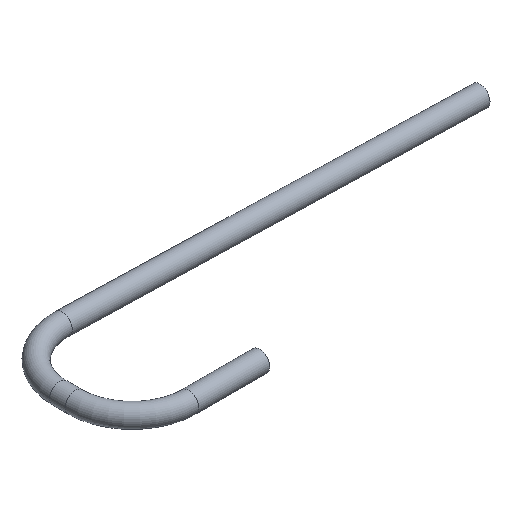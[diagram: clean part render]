
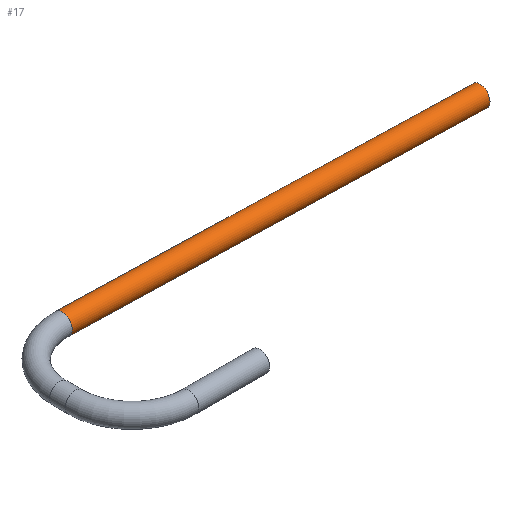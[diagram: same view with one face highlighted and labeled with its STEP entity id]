
A CAD part, isometric view. The second image highlights one B-rep face of the part: STEP entity #17.
In plain terms, the highlighted cylindrical face has radius 0.525 mm (diameter 1.05 mm), a full revolution.
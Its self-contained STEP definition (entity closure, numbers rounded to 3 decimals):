
#17 = ADVANCED_FACE('',(#18),#32,.T.);
#18 = FACE_BOUND('',#19,.T.);
#19 = EDGE_LOOP('',(#20,#49,#75,#76));
#20 = ORIENTED_EDGE('',*,*,#21,.T.);
#21 = EDGE_CURVE('',#22,#24,#26,.T.);
#22 = VERTEX_POINT('',#23);
#23 = CARTESIAN_POINT('',(10.969,-39.424,-8.2));
#24 = VERTEX_POINT('',#25);
#25 = CARTESIAN_POINT('',(-9.857,-38.209,
    -8.807));
#26 = SEAM_CURVE('',#27,(#31,#42),.PCURVE_S1.);
#27 = LINE('',#28,#29);
#28 = CARTESIAN_POINT('',(10.969,-39.424,-8.2));
#29 = VECTOR('',#30,1.);
#30 = DIRECTION('',(-0.998,0.058,
    -0.029));
#31 = PCURVE('',#32,#37);
#32 = CYLINDRICAL_SURFACE('',#33,0.525);
#33 = AXIS2_PLACEMENT_3D('',#34,#35,#36);
#34 = CARTESIAN_POINT('',(11.,-38.9,-8.2));
#35 = DIRECTION('',(-0.998,0.058,
    -0.029));
#36 = DIRECTION('',(-0.058,-0.998,
    0.));
#37 = DEFINITIONAL_REPRESENTATION('',(#38),#41);
#38 = B_SPLINE_CURVE_WITH_KNOTS('',1,(#39,#40),.UNSPECIFIED.,.F.,.F.,(2,
    2),(0.,20.871),.PIECEWISE_BEZIER_KNOTS.);
#39 = CARTESIAN_POINT('',(6.283,0.));
#40 = CARTESIAN_POINT('',(6.283,20.871));
#41 = ( GEOMETRIC_REPRESENTATION_CONTEXT(2) 
PARAMETRIC_REPRESENTATION_CONTEXT() REPRESENTATION_CONTEXT('2D SPACE',''
  ) );
#42 = PCURVE('',#32,#43);
#43 = DEFINITIONAL_REPRESENTATION('',(#44),#48);
#44 = LINE('',#45,#46);
#45 = CARTESIAN_POINT('',(0.,0.));
#46 = VECTOR('',#47,1.);
#47 = DIRECTION('',(0.,1.));
#48 = ( GEOMETRIC_REPRESENTATION_CONTEXT(2) 
PARAMETRIC_REPRESENTATION_CONTEXT() REPRESENTATION_CONTEXT('2D SPACE',''
  ) );
#49 = ORIENTED_EDGE('',*,*,#50,.F.);
#50 = EDGE_CURVE('',#24,#24,#51,.T.);
#51 = SURFACE_CURVE('',#52,(#57,#64),.PCURVE_S1.);
#52 = CIRCLE('',#53,0.525);
#53 = AXIS2_PLACEMENT_3D('',#54,#55,#56);
#54 = CARTESIAN_POINT('',(-9.827,-37.685,-8.807
    ));
#55 = DIRECTION('',(-0.998,0.058,
    -0.029));
#56 = DIRECTION('',(-0.058,-0.998,
    0.));
#57 = PCURVE('',#32,#58);
#58 = DEFINITIONAL_REPRESENTATION('',(#59),#63);
#59 = LINE('',#60,#61);
#60 = CARTESIAN_POINT('',(0.,20.871));
#61 = VECTOR('',#62,1.);
#62 = DIRECTION('',(1.,0.));
#63 = ( GEOMETRIC_REPRESENTATION_CONTEXT(2) 
PARAMETRIC_REPRESENTATION_CONTEXT() REPRESENTATION_CONTEXT('2D SPACE',''
  ) );
#64 = PCURVE('',#65,#70);
#65 = TOROIDAL_SURFACE('',#66,3.,0.525);
#66 = AXIS2_PLACEMENT_3D('',#67,#68,#69);
#67 = CARTESIAN_POINT('',(-10.001,-40.68,-8.813
    ));
#68 = DIRECTION('',(-0.029,0.,
    1.));
#69 = DIRECTION('',(0.058,0.998,0.002
    ));
#70 = DEFINITIONAL_REPRESENTATION('',(#71),#74);
#71 = B_SPLINE_CURVE_WITH_KNOTS('',1,(#72,#73),.UNSPECIFIED.,.F.,.F.,(2,
    2),(0.,6.283),.PIECEWISE_BEZIER_KNOTS.);
#72 = CARTESIAN_POINT('',(0.,9.423));
#73 = CARTESIAN_POINT('',(0.,3.14));
#74 = ( GEOMETRIC_REPRESENTATION_CONTEXT(2) 
PARAMETRIC_REPRESENTATION_CONTEXT() REPRESENTATION_CONTEXT('2D SPACE',''
  ) );
#75 = ORIENTED_EDGE('',*,*,#21,.F.);
#76 = ORIENTED_EDGE('',*,*,#77,.T.);
#77 = EDGE_CURVE('',#22,#22,#78,.T.);
#78 = SURFACE_CURVE('',#79,(#84,#91),.PCURVE_S1.);
#79 = CIRCLE('',#80,0.525);
#80 = AXIS2_PLACEMENT_3D('',#81,#82,#83);
#81 = CARTESIAN_POINT('',(11.,-38.9,-8.2));
#82 = DIRECTION('',(-0.998,0.058,
    -0.029));
#83 = DIRECTION('',(-0.058,-0.998,
    0.));
#84 = PCURVE('',#32,#85);
#85 = DEFINITIONAL_REPRESENTATION('',(#86),#90);
#86 = LINE('',#87,#88);
#87 = CARTESIAN_POINT('',(0.,0.));
#88 = VECTOR('',#89,1.);
#89 = DIRECTION('',(1.,0.));
#90 = ( GEOMETRIC_REPRESENTATION_CONTEXT(2) 
PARAMETRIC_REPRESENTATION_CONTEXT() REPRESENTATION_CONTEXT('2D SPACE',''
  ) );
#91 = PCURVE('',#92,#97);
#92 = PLANE('',#93);
#93 = AXIS2_PLACEMENT_3D('',#94,#95,#96);
#94 = CARTESIAN_POINT('',(11.,-38.9,-8.2));
#95 = DIRECTION('',(-0.998,0.058,
    -0.029));
#96 = DIRECTION('',(-0.058,-0.998,
    0.));
#97 = DEFINITIONAL_REPRESENTATION('',(#98),#102);
#98 = CIRCLE('',#99,0.525);
#99 = AXIS2_PLACEMENT_2D('',#100,#101);
#100 = CARTESIAN_POINT('',(0.,0.));
#101 = DIRECTION('',(1.,0.));
#102 = ( GEOMETRIC_REPRESENTATION_CONTEXT(2) 
PARAMETRIC_REPRESENTATION_CONTEXT() REPRESENTATION_CONTEXT('2D SPACE',''
  ) );
